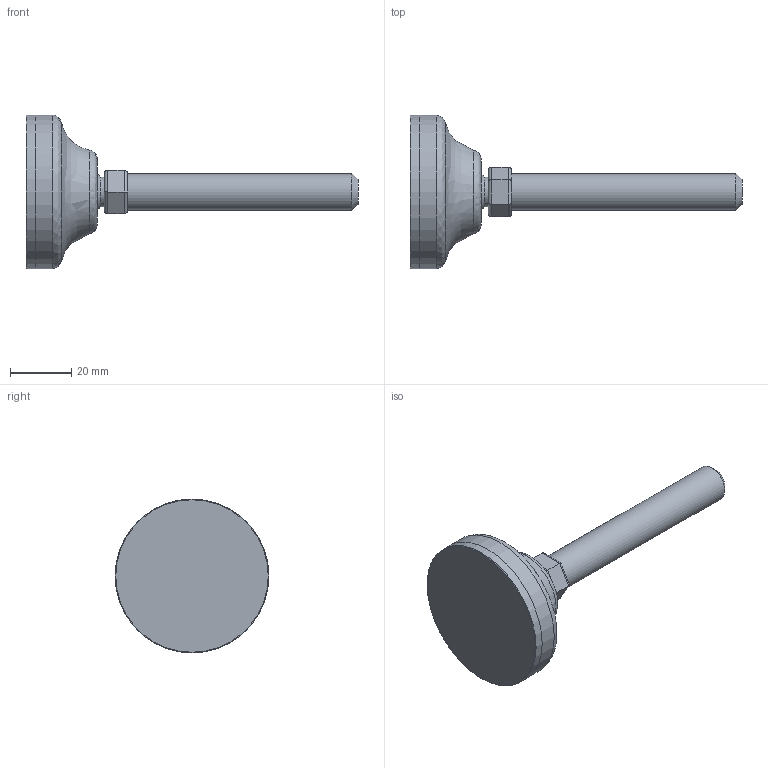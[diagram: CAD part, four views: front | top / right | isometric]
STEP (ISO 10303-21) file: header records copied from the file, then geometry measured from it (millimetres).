
FILE_DESCRIPTION(('STEP AP203'),'2;1');
FILE_NAME('10253.stp','2015-10-29T07:14:53',(''),(''),'2008.1.107','THINKDESIGN','');
FILE_SCHEMA(('CONFIG_CONTROL_DESIGN'));
Length unit declared in the file: millimetre
Bounding box: 108 x 50 x 50 mm (x, y, z)
Volume: 41270.6 mm3; surface area: 14349.4 mm2
Topology: 3 solids, 3 shells, 45 faces, 101 edges, 65 vertices
Faces by surface type: plane 21, cylinder 18, bspline 6
Full cylindrical faces by diameter (mm): 9.747 x1, 12 x1, 41.5 x2, 50 x2
Entity records: 1819 total; most frequent: CARTESIAN_POINT 722, DIRECTION 213, ORIENTED_EDGE 202, EDGE_CURVE 101, AXIS2_PLACEMENT_3D 85, VERTEX_POINT 65, EDGE_LOOP 48, CIRCLE 46
